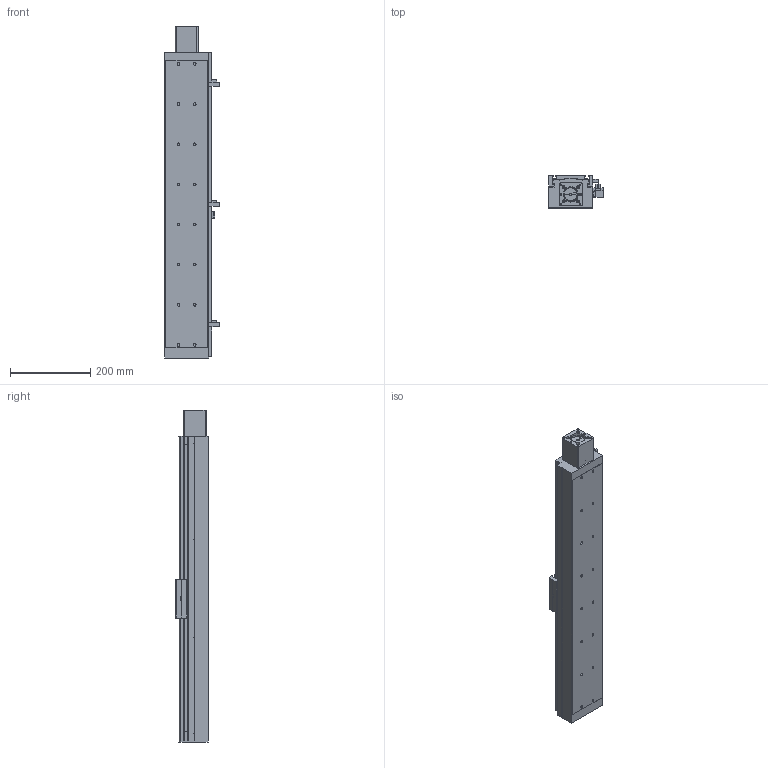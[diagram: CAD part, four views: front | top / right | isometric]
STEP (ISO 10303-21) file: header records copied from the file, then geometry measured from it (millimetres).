
FILE_DESCRIPTION((''),'2;1');
FILE_NAME('E:\libraries\UIA actuator library 2009\standard actuator\UIA110R12(15)DC\UIA110R12(15)DC-ball screw dia.16\UIA110R12(15)DC-_ _ _-R16_ _ step file 20Apr16\UIA110R12(15)DC-600-R16_ _-M23-P13-C10-S.stp','2016-04-20T17:01:32',('h029'),(''),'Autodesk Inventor 11','Autodesk Inventor 11','');
FILE_SCHEMA(('AUTOMOTIVE_DESIGN { 1 0 10303 214 1 1 1 1 }'));
Length unit declared in the file: millimetre
Products named in the file (10): UIA110R12(15)DC-600, ball screw dia.16; body, UIA110R12(15)DC-600,ball screw dia.16; Carriage, UIA110R12(15)DC; Sen Switch, UIA110R12(15)DC; sensor rail, UIA110R12(15)DC-600; SOH-32C; SOH-32C-3; SOH-32C-1; SOH-32C-2; M23 motor mount
Assembly tree (9 placements, depth 3):
  UIA110R12(15)DC-600, ball screw dia.16
    body, UIA110R12(15)DC-600,ball screw dia.16
    Carriage, UIA110R12(15)DC
    Sen Switch, UIA110R12(15)DC
    sensor rail, UIA110R12(15)DC-600
    SOH-32C
      SOH-32C-3
      SOH-32C-1
      SOH-32C-2
    M23 motor mount
Bounding box: 136.5 x 81 x 827 mm (x, y, z)
Volume: 5859527.8 mm3; surface area: 485184.3 mm2
Topology: 8 solids, 8 shells, 645 faces, 1728 edges, 1133 vertices
Faces by surface type: plane 411, cylinder 132, bspline 83, cone 19
Full cylindrical faces by diameter (mm): 2.459 x4, 3.242 x4, 4 x6, 4.5 x4, 5.5 x3, 6.35 x1, 6.5 x16, 7.5 x4, 8 x2, 9.5 x6, 10 x1, 10.5 x16, 21 x1, 32 x3, 37 x1, 38.1 x1, 42 x1, 42.01 x1, 43.5 x1
Entity records: 20580 total; most frequent: CARTESIAN_POINT 5187, DIRECTION 3095, ORIENTED_EDGE 2970, EDGE_CURVE 1485, VERTEX_POINT 1056, AXIS2_PLACEMENT_3D 1046, VECTOR 1003, LINE 1003
